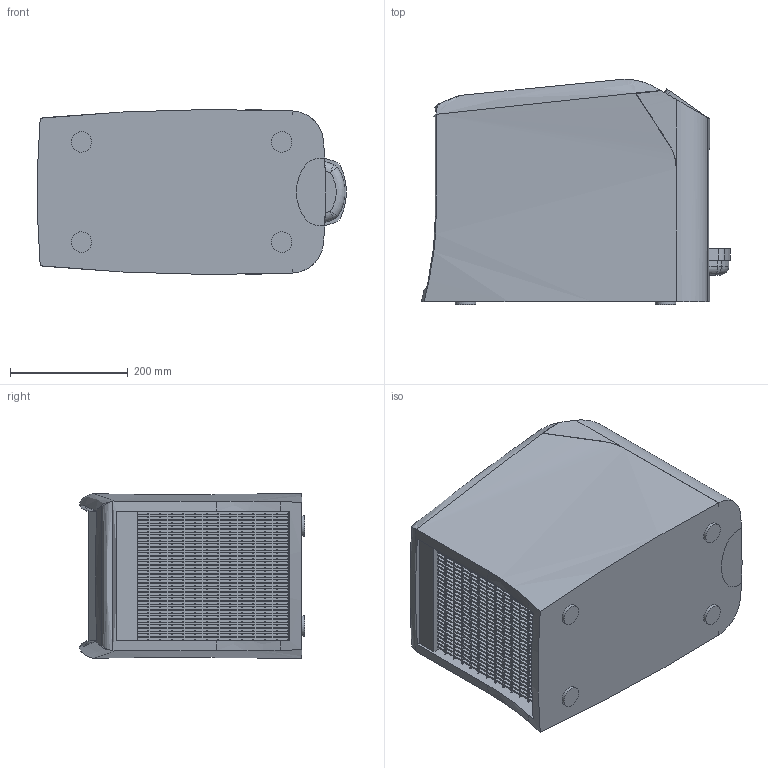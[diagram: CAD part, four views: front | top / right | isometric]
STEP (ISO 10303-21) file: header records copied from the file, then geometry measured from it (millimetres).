
FILE_DESCRIPTION(/* description */ (''),/* implementation_level */ '2;1');
FILE_NAME(/* name */ 'C:\Users\rm\Desktop\AQUAdrink CUBE.stp',/* time_stamp */ '2018-07-11T08:22:24+02:00',/* author */ ('rm'),/* organization */ (''),/* preprocessor_version */ 'ST-DEVELOPER v16.1',/* originating_system */ 'Autodesk Inventor 2016',/* authorisation */ '');
FILE_SCHEMA (('CONFIG_CONTROL_DESIGN'));
Length unit declared in the file: millimetre
Products named in the file (1): AQUAdrink CUBE
Bounding box: 524.44 x 382.29 x 280.14 mm (x, y, z)
Volume: 42185532.6 mm3; surface area: 947169 mm2
Topology: 2 solids, 2 shells, 2064 faces, 5107 edges, 3395 vertices
Faces by surface type: plane 1976, cylinder 66, bspline 11, torus 9, cone 2
Full cylindrical faces by diameter (mm): 35 x5, 38.21 x1
Entity records: 60589 total; most frequent: CARTESIAN_POINT 11398, ORIENTED_EDGE 10196, DIRECTION 9294, EDGE_CURVE 5097, LINE 4872, VECTOR 4872, VERTEX_POINT 3394, EDGE_LOOP 2421
